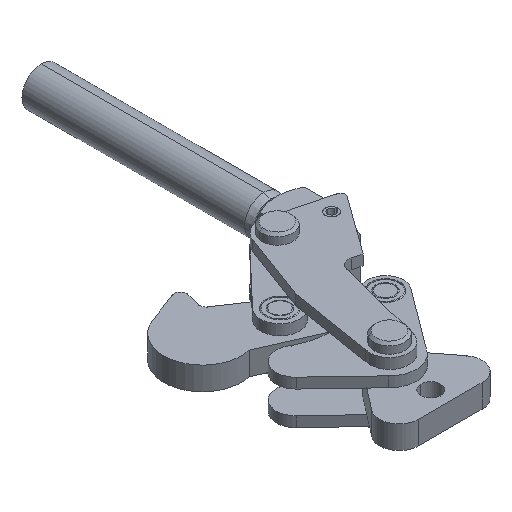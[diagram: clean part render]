
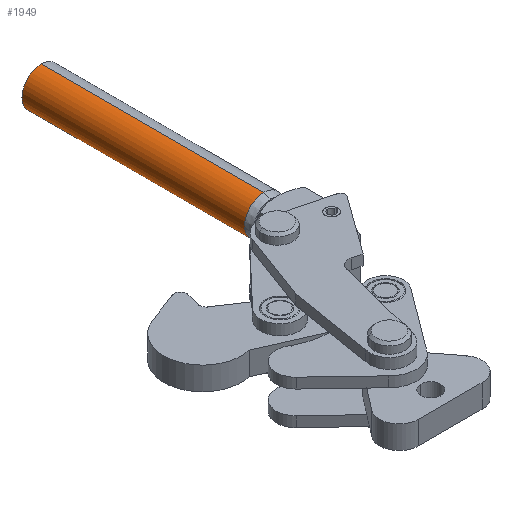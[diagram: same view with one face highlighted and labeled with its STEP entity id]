
A CAD part, isometric view. The second image highlights one B-rep face of the part: STEP entity #1949.
In plain terms, the highlighted cylindrical face has radius 7.938 mm (diameter 15.875 mm), a partial arc.
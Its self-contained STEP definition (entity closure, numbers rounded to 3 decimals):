
#506 = AXIS2_PLACEMENT_3D ( 'NONE', #5541, #5542, #5543 ) ;
#508 = AXIS2_PLACEMENT_3D ( 'NONE', #5549, #5551, #5550 ) ;
#623 = LINE ( 'NONE', #3657, #625 ) ;
#625 = VECTOR ( 'NONE', #3654, 1000. ) ;
#627 = LINE ( 'NONE', #3663, #629 ) ;
#629 = VECTOR ( 'NONE', #3662, 1000. ) ;
#630 = CIRCLE ( 'NONE', #5019, 7.938 ) ;
#1368 = EDGE_LOOP ( 'NONE', ( #2346, #2347, #2338, #2323, #2327 ) ) ;
#1655 = CIRCLE ( 'NONE', #508, 7.938 ) ;
#1660 = CIRCLE ( 'NONE', #506, 7.938 ) ;
#1780 = AXIS2_PLACEMENT_3D ( 'NONE', #5093, #5098, #5114 ) ;
#1874 = EDGE_CURVE ( 'NONE', #5596, #4137, #1660, .T. ) ;
#1876 = EDGE_CURVE ( 'NONE', #5585, #5594, #1655, .T. ) ;
#1949 = ADVANCED_FACE ( 'NONE', ( #5622 ), #5626, .T. ) ;
#2323 = ORIENTED_EDGE ( 'NONE', *, *, #7506, .T. ) ;
#2327 = ORIENTED_EDGE ( 'NONE', *, *, #1876, .T. ) ;
#2338 = ORIENTED_EDGE ( 'NONE', *, *, #7508, .F. ) ;
#2346 = ORIENTED_EDGE ( 'NONE', *, *, #7503, .F. ) ;
#2347 = ORIENTED_EDGE ( 'NONE', *, *, #1874, .F. ) ;
#3250 = CARTESIAN_POINT ( 'NONE',  ( 0., 94.667, 0. ) ) ;
#3251 = DIRECTION ( 'NONE',  ( 0., 1., 0. ) ) ;
#3252 = DIRECTION ( 'NONE',  ( 0., 0., -1. ) ) ;
#3654 = DIRECTION ( 'NONE',  ( 0., -1., 0. ) ) ;
#3657 = CARTESIAN_POINT ( 'NONE',  ( 0., 97., 7.938 ) ) ;
#3662 = DIRECTION ( 'NONE',  ( 0., -1., 0. ) ) ;
#3663 = CARTESIAN_POINT ( 'NONE',  ( 0., 97., -7.938 ) ) ;
#4137 = VERTEX_POINT ( 'NONE', #4639 ) ;
#4639 = CARTESIAN_POINT ( 'NONE',  ( 0., 94.667, 7.938 ) ) ;
#5019 = AXIS2_PLACEMENT_3D ( 'NONE', #3250, #3251, #3252 ) ;
#5093 = CARTESIAN_POINT ( 'NONE',  ( 0., 97., 0. ) ) ;
#5098 = DIRECTION ( 'NONE',  ( 0., -1., 0. ) ) ;
#5114 = DIRECTION ( 'NONE',  ( 0., 0., -1. ) ) ;
#5541 = CARTESIAN_POINT ( 'NONE',  ( 0., 94.667, 0. ) ) ;
#5542 = DIRECTION ( 'NONE',  ( 0., 1., 0. ) ) ;
#5543 = DIRECTION ( 'NONE',  ( 0., 0., -1. ) ) ;
#5549 = CARTESIAN_POINT ( 'NONE',  ( 0., 3., 0. ) ) ;
#5550 = DIRECTION ( 'NONE',  ( 0., 0., 1. ) ) ;
#5551 = DIRECTION ( 'NONE',  ( 0., 1., 0. ) ) ;
#5585 = VERTEX_POINT ( 'NONE', #6328 ) ;
#5594 = VERTEX_POINT ( 'NONE', #6337 ) ;
#5596 = VERTEX_POINT ( 'NONE', #6339 ) ;
#5610 = VERTEX_POINT ( 'NONE', #6353 ) ;
#5622 = FACE_OUTER_BOUND ( 'NONE', #1368, .T. ) ;
#5626 = CYLINDRICAL_SURFACE ( 'NONE', #1780, 7.938 ) ;
#6328 = CARTESIAN_POINT ( 'NONE',  ( 0., 3., -7.938 ) ) ;
#6337 = CARTESIAN_POINT ( 'NONE',  ( 0., 3., 7.938 ) ) ;
#6339 = CARTESIAN_POINT ( 'NONE',  ( -7.938, 94.667, 0. ) ) ;
#6353 = CARTESIAN_POINT ( 'NONE',  ( 0., 94.667, -7.938 ) ) ;
#7503 = EDGE_CURVE ( 'NONE', #4137, #5594, #623, .T. ) ;
#7506 = EDGE_CURVE ( 'NONE', #5610, #5585, #627, .T. ) ;
#7508 = EDGE_CURVE ( 'NONE', #5610, #5596, #630, .T. ) ;
